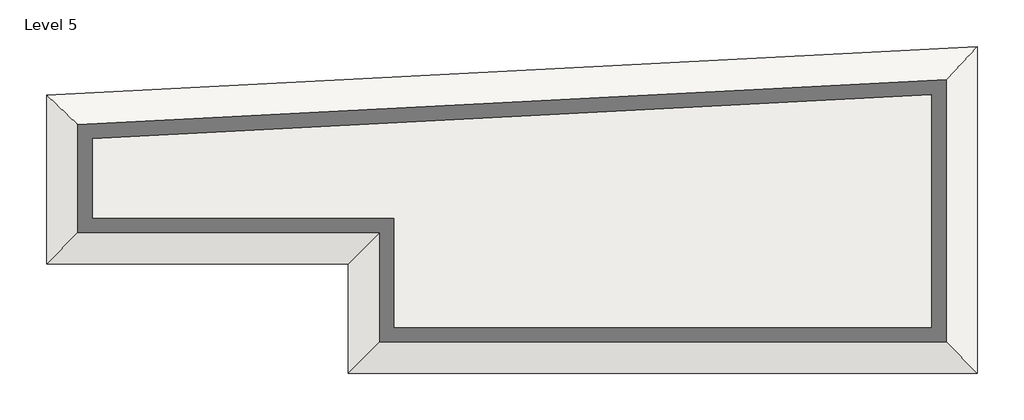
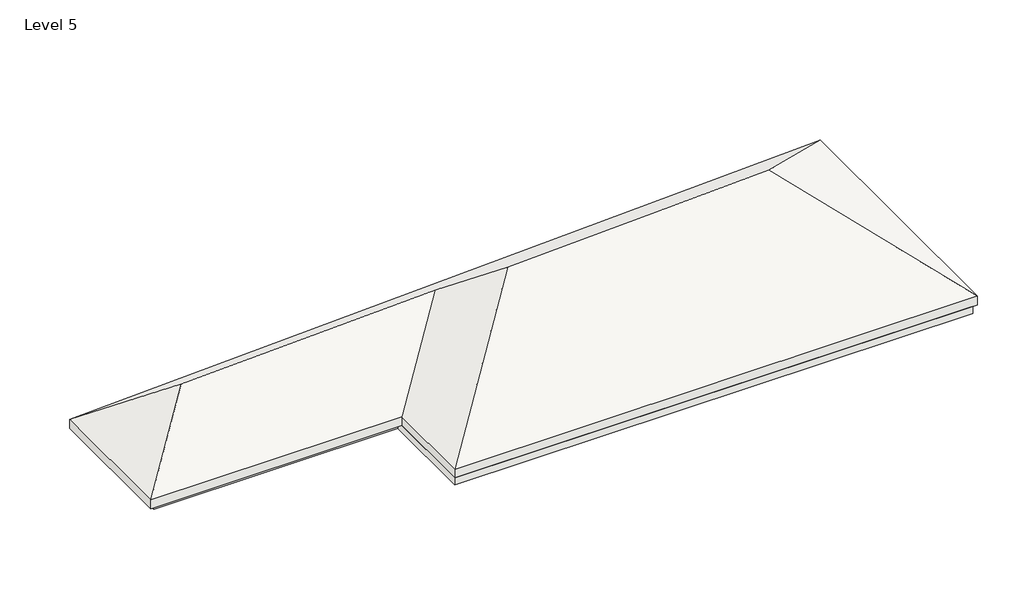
# One storey: 1 roof, 1 slab.
"""IFC4 building model written with IfcOpenShell, lengths in millimetres."""

from ifc_helpers import new_model, si_unit, frame, origin, place, context, project, spatial, polyline, outline, extrude, faceted_brep, element, save

model = new_model("IFC4")

# Units and contexts
model_context = context("Model", 3, world=origin())
ifc_project = project(units=[si_unit("LENGTHUNIT", "METRE", prefix="MILLI")], contexts=[model_context])

# Site, building, storey
site = spatial("IfcSite", under=ifc_project)
building = spatial("IfcBuilding", under=site)
storey = spatial("IfcBuildingStorey", under=building, Name="Level 5", Elevation=15392.4)

# Roof
placement = place(None, origin())
element("IfcRoof", 1, ObjectType="Generic - 12\"", at=placement, inside=storey, context=model_context, shape_type="Brep", body=[
    faceted_brep([(-11708.2186041, 8501.0763106, 15392.4), (-8691.3899324, 11517.9049823, 17655.0215038), (2100.5635356, 11799.0209503, 17865.8584798), (-1197.3811041, 8501.0763106, 15392.4), (-11708.2186041, 14381.5550404, 15392.4), (-1197.3811041, 4686.3138106, 15392.4), (4057.6295186, 9941.3244333, 19333.657967), (15153.3788294, 10230.3538771, 19550.4300499), (20697.4188959, 4686.3138106, 15392.4), (20697.4188959, 16070.9484645, 15392.4), (-11708.2186041, 8501.0763106, 15773.4), (-1197.3811041, 8501.0763106, 15773.4), (2100.5635356, 11799.0209503, 18246.8584798), (-8691.3899324, 11517.9049823, 18036.0215038), (-11708.2186041, 14381.5550404, 15773.4), (-1197.3811041, 4686.3138106, 15773.4), (4057.6295186, 9941.3244333, 19714.657967), (20697.4188959, 4686.3138106, 15773.4), (15153.3788294, 10230.3538771, 19931.4300499), (20697.4188959, 16070.9484645, 15773.4)], [[[0, 1, 2, 3]], [[4, 1, 0]], [[5, 3, 2, 6]], [[5, 6, 7, 8]], [[8, 7, 9]], [[1, 4, 9, 7, 6, 2]], [[10, 11, 12, 13]], [[14, 10, 13]], [[11, 15, 16, 12]], [[15, 17, 18, 16]], [[17, 19, 18]], [[14, 13, 12, 16, 18, 19]], [[0, 10, 14, 4]], [[3, 11, 10, 0]], [[5, 15, 11, 3]], [[8, 17, 15, 5]], [[9, 19, 17, 8]], [[4, 14, 19, 9]]]),
])

# Slab
element("IfcSlab", 2, ObjectType="Generic - 12\"", at=placement, inside=storey, context=model_context, shape_type="SweptSolid", body=[
    extrude(outline(polyline([(-11412.9436041, 14193.4725808), (20494.2188959, 15856.8791566), (20494.2188959, 4686.3138106), (-1197.3811041, 4686.3138106), (-1197.3811041, 8796.3513106), (-11412.9436041, 8796.3513106), (-11412.9436041, 14193.4725808)])), frame((0.0, 0.0, 15087.6), z_axis=(0.0, 0.0, 1.0), x_axis=(1.0, 0.0, 0.0)), (0.0, 0.0, 1.0), 304.8),
])

save(model, "model.ifc")
